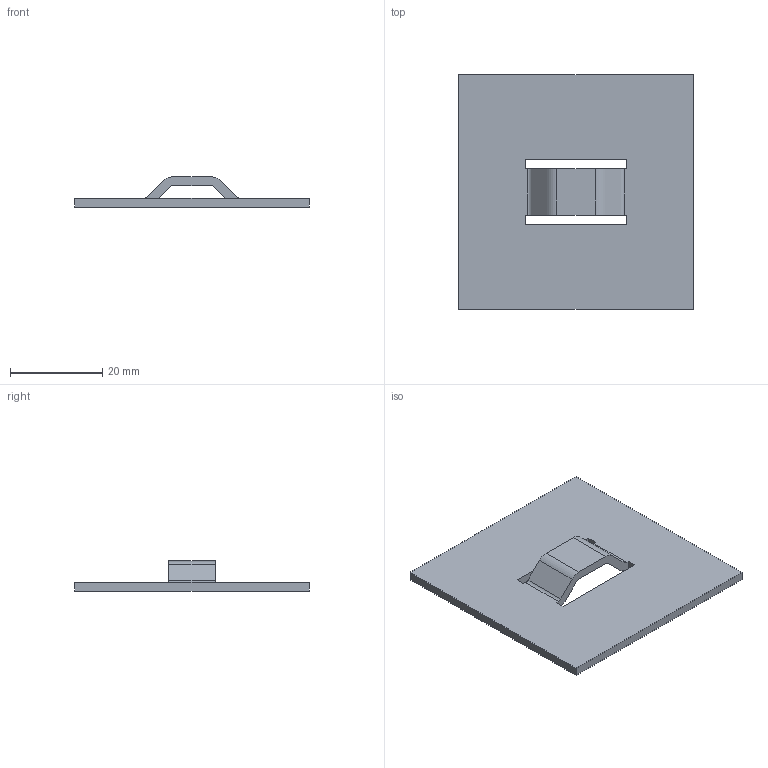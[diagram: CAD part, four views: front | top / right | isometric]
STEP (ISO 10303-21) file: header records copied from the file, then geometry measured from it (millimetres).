
FILE_DESCRIPTION((''),'1');
FILE_NAME('C:/Users/robertnolte/Desktop/WT#202-9244.stp','2012-03-28T19:27:15',(''),(''),'Spatial Interop R21 SP3','Kubotek KeyCreator 2011 V10.5.0 (24766)',' ');
FILE_SCHEMA(('CONFIG_CONTROL_DESIGN'));
Length unit declared in the file: inch
Products named in the file (1): 1
Bounding box: 50.8 x 50.8 x 6.55 mm (x, y, z)
Volume: 4812.8 mm3; surface area: 5636.4 mm2
Topology: 1 solids, 1 shells, 28 faces, 84 edges, 56 vertices
Faces by surface type: plane 20, cylinder 8
Entity records: 996 total; most frequent: CARTESIAN_POINT 169, ORIENTED_EDGE 168, DIRECTION 158, EDGE_CURVE 84, LINE 68, VECTOR 68, VERTEX_POINT 56, AXIS2_PLACEMENT_3D 45
